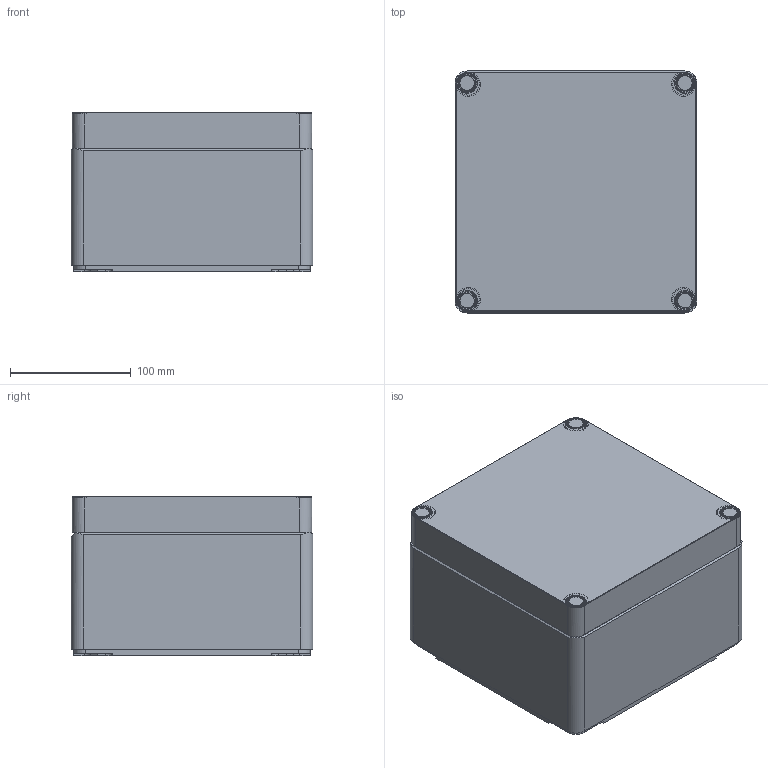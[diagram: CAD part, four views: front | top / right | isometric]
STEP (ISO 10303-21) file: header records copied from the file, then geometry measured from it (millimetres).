
FILE_DESCRIPTION((''),'1');
FILE_NAME('29','2001-04-17T',('jlue'),(''),'PRO/ENGINEER BY PARAMETRIC TECHNOLOGY CORPORATION, 9846','PRO/ENGINEER BY PARAMETRIC TECHNOLOGY CORPORATION, 9846','');
FILE_SCHEMA(('CONFIG_CONTROL_DESIGN'));
Length unit declared in the file: millimetre
Products named in the file (1): 29
Bounding box: 200 x 200 x 132 mm (x, y, z)
Surface area: 367071.6 mm2 (no closed solid volume)
Topology: 0 solids, 0 shells, 398 faces, 1992 edges, 2044 vertices
Faces by surface type: plane 194, cylinder 184, torus 20
Entity records: 10334 total; most frequent: DIRECTION 2212, COMPOSITE_CURVE_SEGMENT 1880, CARTESIAN_POINT 1516, TRIMMED_CURVE 1004, AXIS2_PLACEMENT_3D 810, VECTOR 592, LINE 592, CIRCLE 412
